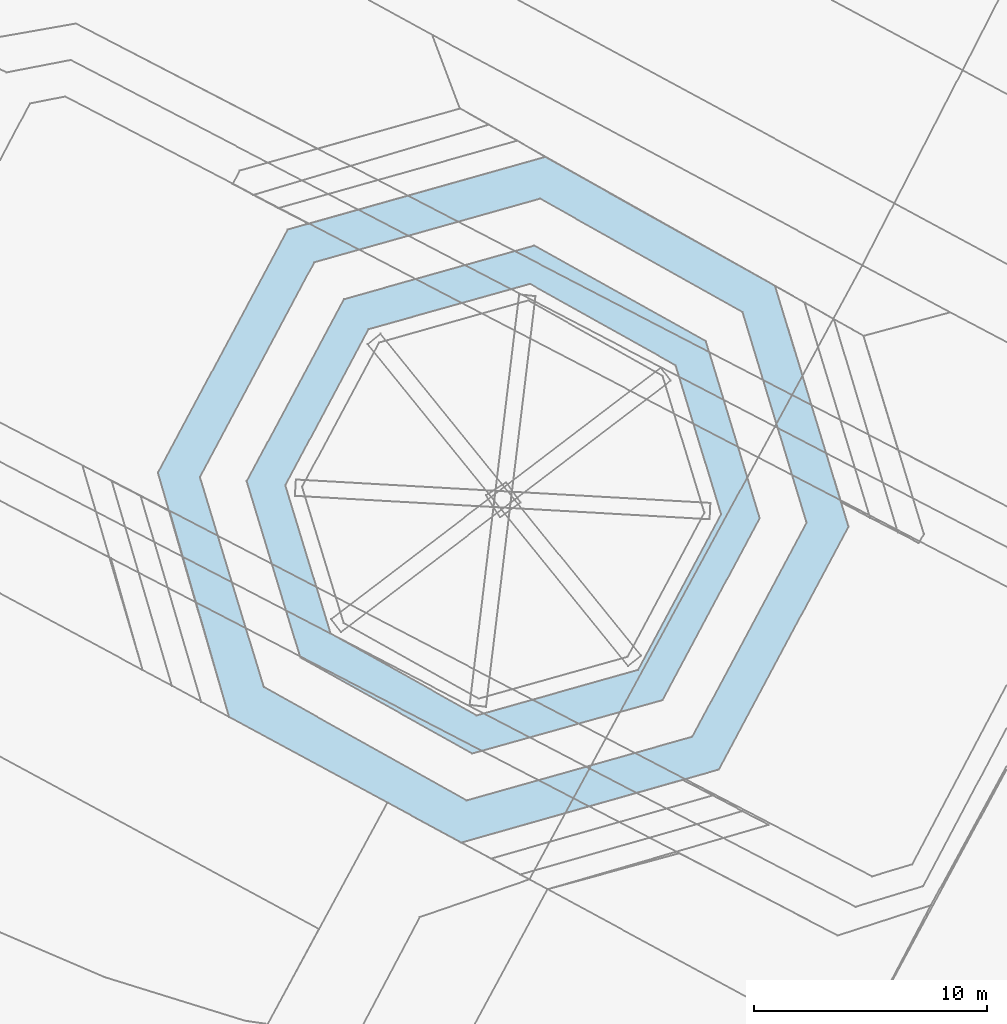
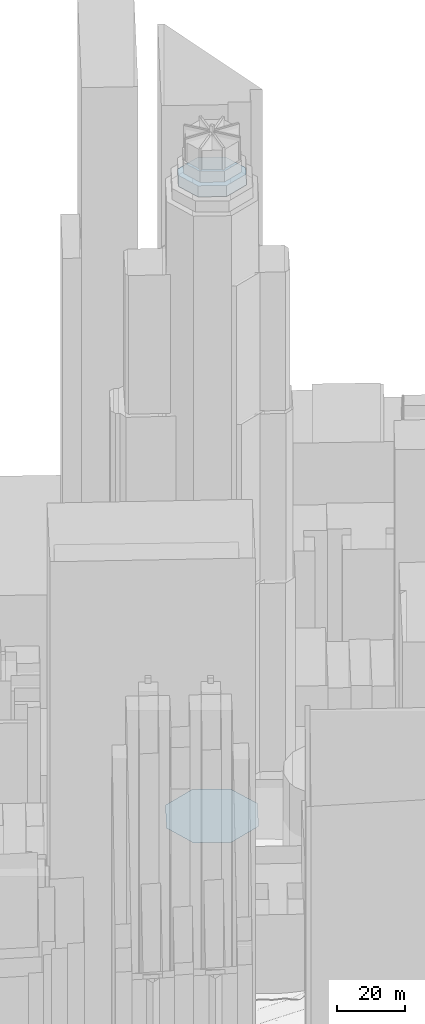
# Not in any storey, part 8 of 80: 2 footings.
"""IFC4 building model written with IfcOpenShell, lengths in metres."""

import ifcopenshell
import ifcopenshell.guid

model = None  # the IFC model being written
_history = None  # IfcOwnerHistory: only IFC2X3 demands one
_inside = {}  # id of a spatial element -> (the spatial element, [elements in it])
_under = {}  # id of a project, library or spatial element -> (it, [spatial elements below it])
_declared = {}  # id of a project -> (the project, [libraries it declares])
_typed = {}  # id of a type object -> (the type object, [elements of that type])
_made_of = {}  # id of a material, layer set ... -> (it, [elements and type objects made of it])


def new_model(schema):
    """Start an empty IFC model of exactly this schema.

    Asked for "IFC4X3", IfcOpenShell would pick the latest addendum, in which some entities
    have other attributes; the version numbers below select the first issue.
    IFC2X3 requires an IfcOwnerHistory on every rooted entity: one is made here for all.
    """
    global model, _history
    if schema == "IFC4X3":
        model = ifcopenshell.file(schema_version=(4, 3, 0, 0))
    else:
        model = ifcopenshell.file(schema=schema)
    _inside.clear()
    _under.clear()
    _declared.clear()
    _typed.clear()
    _made_of.clear()
    _history = None
    if model.schema == "IFC2X3":
        org = make("IfcOrganization", Name="unknown")
        user = make(
            "IfcPersonAndOrganization",
            ThePerson=make("IfcPerson", FamilyName="unknown"),
            TheOrganization=org,
        )
        app = make(
            "IfcApplication",
            ApplicationDeveloper=org,
            Version="unknown",
            ApplicationFullName="unknown",
            ApplicationIdentifier="unknown",
        )
        _history = make(
            "IfcOwnerHistory",
            OwningUser=user,
            OwningApplication=app,
            ChangeAction="ADDED",
            CreationDate=0,
        )
    return model


def make(cls, **values):
    """One entity of the class cls with the attributes given. An attribute that is None is left unset."""
    return model.create_entity(
        cls, **{name: value for name, value in values.items() if value is not None}
    )


def rooted(cls, **values):
    """An entity with a GlobalId (a new one), such as an element, a storey or a relation."""
    return make(cls, GlobalId=ifcopenshell.guid.new(), OwnerHistory=_history, **values)


def si_unit(unit_type, name, prefix=None):
    """IfcSIUnit, for example si_unit("LENGTHUNIT", "METRE", prefix="MILLI")."""
    return make("IfcSIUnit", UnitType=unit_type, Prefix=prefix, Name=name)


def assignment(units):
    """IfcUnitAssignment: the units of a project."""
    return None if units is None else make("IfcUnitAssignment", Units=units)


def point(xyz):
    """IfcCartesianPoint."""
    return None if xyz is None else make("IfcCartesianPoint", Coordinates=xyz)


def direction(xyz):
    """IfcDirection."""
    return None if xyz is None else make("IfcDirection", DirectionRatios=xyz)


def frame(location, z_axis=None, x_axis=None):
    """IfcAxis2Placement3D, a coordinate frame: its origin and axes. An axis left out is left unset."""
    return make(
        "IfcAxis2Placement3D",
        Location=point(location),
        Axis=direction(z_axis),
        RefDirection=direction(x_axis),
    )


def origin_with_axes():
    """The frame at (0, 0, 0) with the z axis (0, 0, 1) and the x axis (1, 0, 0) written out."""
    return frame((0.0, 0.0, 0.0), z_axis=(0.0, 0.0, 1.0), x_axis=(1.0, 0.0, 0.0))


def place(relative_to, where):
    """IfcLocalPlacement: puts the frame where relative to a parent placement (None: the world)."""
    return make(
        "IfcLocalPlacement", PlacementRelTo=relative_to, RelativePlacement=where
    )


def context(
    kind, dimensions, precision=None, world=None, true_north=None, identifier=None
):
    """IfcGeometricRepresentationContext, for example the 3D "Model" context."""
    return make(
        "IfcGeometricRepresentationContext",
        ContextIdentifier=identifier,
        ContextType=kind,
        CoordinateSpaceDimension=dimensions,
        Precision=precision,
        WorldCoordinateSystem=world,
        TrueNorth=true_north,
    )


def subcontext(parent, identifier, kind, view, scale=None):
    """IfcGeometricRepresentationSubContext, for example "Body" below "Model"."""
    return make(
        "IfcGeometricRepresentationSubContext",
        ContextIdentifier=identifier,
        ContextType=kind,
        ParentContext=parent,
        TargetScale=scale,
        TargetView=view,
    )


def project(units=None, contexts=None):
    """IfcProject with its units and contexts."""
    return rooted(
        "IfcProject",
        Name="project",
        RepresentationContexts=contexts,
        UnitsInContext=assignment(units),
    )


def spatial(cls, under=None, at=None, **own):
    """A site, building, storey or space (cls), placed at a placement, below another one or the project."""
    s = rooted(cls, ObjectPlacement=at, **own)
    if under is not None:
        _under.setdefault(under.id(), (under, []))[1].append(s)
    return s


def point_list(points):
    """IfcCartesianPointList2D or 3D."""
    cls = (
        "IfcCartesianPointList2D" if len(points[0]) == 2 else "IfcCartesianPointList3D"
    )
    return make(cls, CoordList=points)


def polygons(points, faces, closed=None, point_numbers=None):
    """IfcPolygonalFaceSet: a face is its outer loop, then its inner loops; points numbered from 1."""
    made = []
    for loops in faces:
        if len(loops) == 1:
            made.append(make("IfcIndexedPolygonalFace", CoordIndex=loops[0]))
        else:
            made.append(
                make(
                    "IfcIndexedPolygonalFaceWithVoids",
                    CoordIndex=loops[0],
                    InnerCoordIndices=loops[1:],
                )
            )
    return make(
        "IfcPolygonalFaceSet",
        Coordinates=point_list(points),
        Closed=closed,
        Faces=made,
        PnIndex=point_numbers,
    )


def shape(context_of_items, identifier, shape_type, items):
    """IfcShapeRepresentation: the items that make up one representation, for example the "Body"."""
    return make(
        "IfcShapeRepresentation",
        ContextOfItems=context_of_items,
        RepresentationIdentifier=identifier,
        RepresentationType=shape_type,
        Items=items,
    )


def made_of(thing, what):
    """Note that an element or type object is made of a material, layer set ...; save() writes the relation."""
    if what is not None:
        _made_of.setdefault(what.id(), (what, []))[1].append(thing)
    return thing


def element(
    cls,
    number,
    at=None,
    inside=None,
    cuts=None,
    type_object=None,
    material=None,
    context=None,
    identifier="Body",
    shape_type=None,
    held_by="IfcProductDefinitionShape",
    body=None,
    shapes=None,
    **own,
):
    """One element of the class cls, such as IfcWall. Its Tag is "e" and its number.

    at: its placement. inside: the storey or other place that contains it. cuts: it is an
    opening in that element (IfcRelVoidsElement). A single representation is given by context,
    identifier, shape_type and body (its items); several are given by shapes. held_by: the class
    of the entity that holds the representations. save() writes the other relations.
    """
    e = rooted(cls, Tag="e%d" % number, ObjectPlacement=at, **own)
    if body is not None:
        shapes = [shape(context, identifier, shape_type, body)]
    if shapes is not None:
        e.Representation = make(held_by, Representations=shapes)
    if inside is not None:
        _inside.setdefault(inside.id(), (inside, []))[1].append(e)
    if cuts is not None:
        rooted(
            "IfcRelVoidsElement", RelatingBuildingElement=cuts, RelatedOpeningElement=e
        )
    if type_object is not None:
        _typed.setdefault(type_object.id(), (type_object, []))[1].append(e)
    return made_of(e, material)


def aggregate(whole, parts):
    """IfcRelAggregates: a whole, such as a stair, and the parts it consists of."""
    return rooted("IfcRelAggregates", RelatingObject=whole, RelatedObjects=parts)


def save(model, path):
    """Write the relations noted so far, then the file.

    IfcRelAggregates (storeys below a building ...), IfcRelContainedInSpatialStructure (elements
    in a storey), IfcRelDefinesByType, IfcRelAssociatesMaterial and IfcRelDeclares: one each for
    every whole, place, type object, material and project.
    """
    for whole, parts in _under.values():
        aggregate(whole, parts)
    for where, things in _inside.values():
        rooted(
            "IfcRelContainedInSpatialStructure",
            RelatedElements=things,
            RelatingStructure=where,
        )
    for kind, things in _typed.values():
        rooted("IfcRelDefinesByType", RelatedObjects=things, RelatingType=kind)
    for what, things in _made_of.values():
        rooted("IfcRelAssociatesMaterial", RelatedObjects=things, RelatingMaterial=what)
    for by, libraries in _declared.values():
        rooted("IfcRelDeclares", RelatingContext=by, RelatedDefinitions=libraries)
    model.write(path)


model = new_model("IFC4")

# Units and contexts
model_context = context("Model", 3, precision=1e-05, world=origin_with_axes())
body_context = subcontext(model_context, "Body", "Model", "MODEL_VIEW")
ifc_project = project(units=[si_unit("AREAUNIT", "SQUARE_METRE"), si_unit("LENGTHUNIT", "METRE")], contexts=[model_context])

# Sites, building
site_1_placement = place(None, origin_with_axes())
site_1 = spatial("IfcSite", under=ifc_project, at=site_1_placement, Name="Topoexport Site")
site_2_placement = place(site_1_placement, origin_with_axes())
site_2 = spatial("IfcSite", under=site_1, at=site_2_placement, Name="TPX_BATIMENTS")
building_1_placement = place(site_2_placement, frame((195.292913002, 290.9488680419, 251.4761187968), z_axis=(0.0, 0.0, 1.0), x_axis=(1.0, 0.0, 0.0)))
building_1 = spatial("IfcBuilding", under=site_2, at=building_1_placement, Name="Batiment 114", CompositionType="ELEMENT")

# Footing
footing_1_placement = place(None, frame((195.292913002, 290.9488680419, 251.4761187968), z_axis=(0.0, 0.0, 1.0), x_axis=(1.0, 0.0, 0.0)))
element("IfcFooting", 1, at=footing_1_placement, inside=building_1, Name="Sol 0", context=body_context, shape_type="Tessellation", body=[
    polygons([(0.0, 0.0, 0.0), (2.308204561, -7.5782069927, 0.0), (9.6747051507, -11.6891998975, 0.0), (17.8446396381, -9.3959413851, 0.0), (22.0165962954, -1.5758398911, 0.0), (19.7083730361, 6.0023613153, 0.0), (12.3418838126, 10.1133441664, 0.0), (4.1720986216, 7.8089905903, 0.0)], [[[2, 1, 8]], [[4, 3, 2]], [[6, 5, 4]], [[8, 7, 6]], [[4, 2, 8]], [[8, 6, 4]]]),
])

# Building
building_2_placement = place(site_2_placement, frame((191.4815843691, 291.3153359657, 21.0925550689), z_axis=(0.0, 0.0, 1.0), x_axis=(1.0, 0.0, 0.0)))
building_2 = spatial("IfcBuilding", under=site_2, at=building_2_placement, Name="Batiment 115", CompositionType="ELEMENT")

# Footing
footing_2_placement = place(None, frame((191.4815843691, 291.3153359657, 21.0925550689), z_axis=(0.0, 0.0, 1.0), x_axis=(1.0, 0.0, 0.0)))
element("IfcFooting", 2, at=footing_2_placement, inside=building_2, Name="Sol 0", context=body_context, shape_type="Tessellation", body=[
    polygons([(0.0, 0.0, 0.0), (3.0595688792, -10.4893652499, 0.0), (13.0155840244, -15.880315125, 0.0), (24.0711095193, -12.7430327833, 0.0), (29.6392561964, -2.3087624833, 0.0), (26.4887462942, 8.0130012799, 0.0), (16.6070361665, 13.549126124, 0.0), (5.568169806, 10.4342520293, 0.0)], [[[2, 1, 8]], [[4, 3, 2]], [[6, 5, 4]], [[8, 7, 6]], [[4, 2, 8]], [[8, 6, 4]]]),
])

save(model, "model.ifc")
